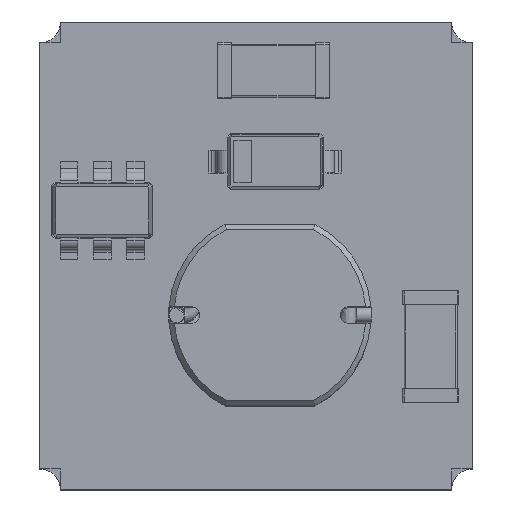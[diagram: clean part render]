
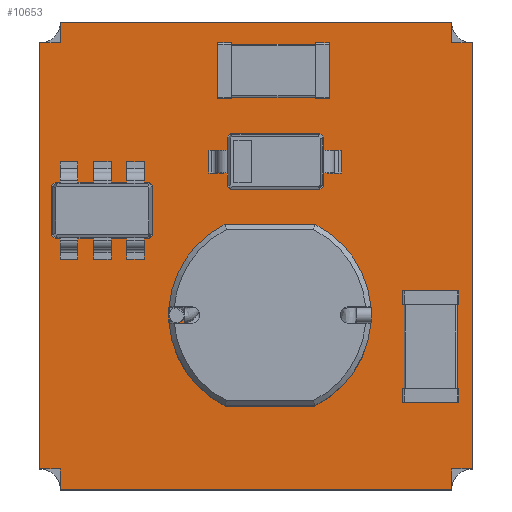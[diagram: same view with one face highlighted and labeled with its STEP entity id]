
A CAD part, top view. The second image highlights one B-rep face of the part: STEP entity #10653.
In plain terms, the highlighted planar face has unit normal (0, 0, 1).
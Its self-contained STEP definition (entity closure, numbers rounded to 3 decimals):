
#10397 = VERTEX_POINT('',#10398);
#10398 = CARTESIAN_POINT('',(-5.6,6.7,1.6));
#10404 = EDGE_CURVE('',#10405,#10397,#10407,.T.);
#10405 = VERTEX_POINT('',#10406);
#10406 = CARTESIAN_POINT('',(-6.2,6.1,1.6));
#10407 = CIRCLE('',#10408,0.6);
#10408 = AXIS2_PLACEMENT_3D('',#10409,#10410,#10411);
#10409 = CARTESIAN_POINT('',(-6.2,6.7,1.6));
#10410 = DIRECTION('',(0.,0.,1.));
#10411 = DIRECTION('',(1.,0.,-0.));
#10428 = EDGE_CURVE('',#10397,#10429,#10431,.T.);
#10429 = VERTEX_POINT('',#10430);
#10430 = CARTESIAN_POINT('',(5.6,6.7,1.6));
#10431 = LINE('',#10432,#10433);
#10432 = CARTESIAN_POINT('',(-5.6,6.7,1.6));
#10433 = VECTOR('',#10434,1.);
#10434 = DIRECTION('',(1.,0.,0.));
#10468 = VERTEX_POINT('',#10469);
#10469 = CARTESIAN_POINT('',(6.2,6.1,1.6));
#10475 = EDGE_CURVE('',#10429,#10468,#10476,.T.);
#10476 = CIRCLE('',#10477,0.6);
#10477 = AXIS2_PLACEMENT_3D('',#10478,#10479,#10480);
#10478 = CARTESIAN_POINT('',(6.2,6.7,1.6));
#10479 = DIRECTION('',(0.,0.,1.));
#10480 = DIRECTION('',(1.,0.,-0.));
#10492 = EDGE_CURVE('',#10468,#10493,#10495,.T.);
#10493 = VERTEX_POINT('',#10494);
#10494 = CARTESIAN_POINT('',(6.2,-6.1,1.6));
#10495 = LINE('',#10496,#10497);
#10496 = CARTESIAN_POINT('',(6.2,6.1,1.6));
#10497 = VECTOR('',#10498,1.);
#10498 = DIRECTION('',(0.,-1.,0.));
#10532 = VERTEX_POINT('',#10533);
#10533 = CARTESIAN_POINT('',(5.6,-6.7,1.6));
#10539 = EDGE_CURVE('',#10493,#10532,#10540,.T.);
#10540 = CIRCLE('',#10541,0.6);
#10541 = AXIS2_PLACEMENT_3D('',#10542,#10543,#10544);
#10542 = CARTESIAN_POINT('',(6.2,-6.7,1.6));
#10543 = DIRECTION('',(0.,0.,1.));
#10544 = DIRECTION('',(1.,0.,-0.));
#10556 = EDGE_CURVE('',#10532,#10557,#10559,.T.);
#10557 = VERTEX_POINT('',#10558);
#10558 = CARTESIAN_POINT('',(-5.6,-6.7,1.6));
#10559 = LINE('',#10560,#10561);
#10560 = CARTESIAN_POINT('',(5.6,-6.7,1.6));
#10561 = VECTOR('',#10562,1.);
#10562 = DIRECTION('',(-1.,0.,0.));
#10596 = VERTEX_POINT('',#10597);
#10597 = CARTESIAN_POINT('',(-6.2,-6.1,1.6));
#10603 = EDGE_CURVE('',#10557,#10596,#10604,.T.);
#10604 = CIRCLE('',#10605,0.6);
#10605 = AXIS2_PLACEMENT_3D('',#10606,#10607,#10608);
#10606 = CARTESIAN_POINT('',(-6.2,-6.7,1.6));
#10607 = DIRECTION('',(0.,0.,1.));
#10608 = DIRECTION('',(1.,0.,-0.));
#10620 = EDGE_CURVE('',#10596,#10405,#10621,.T.);
#10621 = LINE('',#10622,#10623);
#10622 = CARTESIAN_POINT('',(-6.2,-6.1,1.6));
#10623 = VECTOR('',#10624,1.);
#10624 = DIRECTION('',(0.,1.,0.));
#10653 = ADVANCED_FACE('',(#10654),#10664,.F.);
#10654 = FACE_BOUND('',#10655,.F.);
#10655 = EDGE_LOOP('',(#10656,#10657,#10658,#10659,#10660,#10661,#10662,
    #10663));
#10656 = ORIENTED_EDGE('',*,*,#10404,.T.);
#10657 = ORIENTED_EDGE('',*,*,#10428,.T.);
#10658 = ORIENTED_EDGE('',*,*,#10475,.T.);
#10659 = ORIENTED_EDGE('',*,*,#10492,.T.);
#10660 = ORIENTED_EDGE('',*,*,#10539,.T.);
#10661 = ORIENTED_EDGE('',*,*,#10556,.T.);
#10662 = ORIENTED_EDGE('',*,*,#10603,.T.);
#10663 = ORIENTED_EDGE('',*,*,#10620,.T.);
#10664 = PLANE('',#10665);
#10665 = AXIS2_PLACEMENT_3D('',#10666,#10667,#10668);
#10666 = CARTESIAN_POINT('',(0.,0.,1.6
    ));
#10667 = DIRECTION('',(-0.,-0.,-1.));
#10668 = DIRECTION('',(-1.,0.,0.));
